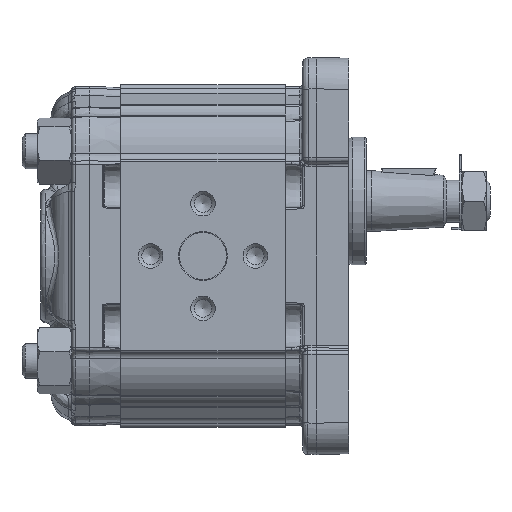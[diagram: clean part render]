
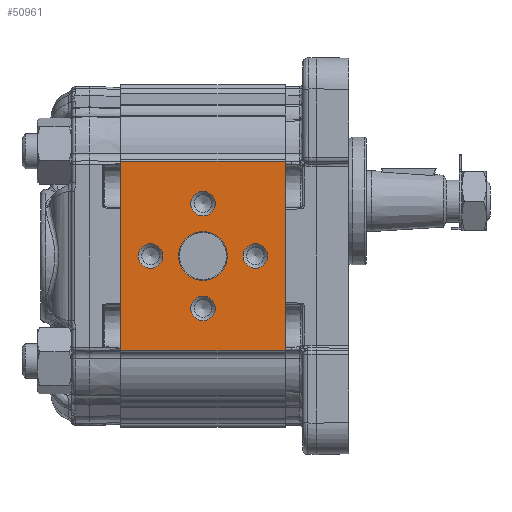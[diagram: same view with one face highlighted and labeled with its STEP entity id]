
A CAD part, left-side view. The second image highlights one B-rep face of the part: STEP entity #50961.
In plain terms, the highlighted planar face has unit normal (-1, 0, 0).
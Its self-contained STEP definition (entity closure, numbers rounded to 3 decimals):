
#3393=PLANE('',#53998);
#4550=CIRCLE('',#53999,3.5);
#4551=CIRCLE('',#54000,3.5);
#4552=CIRCLE('',#54001,3.5);
#4553=CIRCLE('',#54002,3.5);
#4554=CIRCLE('',#54003,6.95);
#9204=ORIENTED_EDGE('',*,*,#17801,.T.);
#9205=ORIENTED_EDGE('',*,*,#17802,.T.);
#9206=ORIENTED_EDGE('',*,*,#17803,.T.);
#9207=ORIENTED_EDGE('',*,*,#17804,.T.);
#9208=ORIENTED_EDGE('',*,*,#17805,.T.);
#9209=ORIENTED_EDGE('',*,*,#17806,.F.);
#9210=ORIENTED_EDGE('',*,*,#17807,.F.);
#9211=ORIENTED_EDGE('',*,*,#17808,.T.);
#9212=ORIENTED_EDGE('',*,*,#17809,.T.);
#17801=EDGE_CURVE('',#22385,#22385,#4550,.F.);
#17802=EDGE_CURVE('',#22386,#22386,#4551,.F.);
#17803=EDGE_CURVE('',#22387,#22387,#4552,.F.);
#17804=EDGE_CURVE('',#22388,#22388,#4553,.F.);
#17805=EDGE_CURVE('',#22389,#22389,#4554,.F.);
#17806=EDGE_CURVE('',#22390,#22391,#25073,.T.);
#17807=EDGE_CURVE('',#22392,#22390,#25074,.T.);
#17808=EDGE_CURVE('',#22392,#22393,#25075,.T.);
#17809=EDGE_CURVE('',#22393,#22391,#25076,.T.);
#22385=VERTEX_POINT('',#73501);
#22386=VERTEX_POINT('',#73503);
#22387=VERTEX_POINT('',#73505);
#22388=VERTEX_POINT('',#73507);
#22389=VERTEX_POINT('',#73509);
#22390=VERTEX_POINT('',#73511);
#22391=VERTEX_POINT('',#73512);
#22392=VERTEX_POINT('',#73514);
#22393=VERTEX_POINT('',#73516);
#25073=LINE('',#73510,#26815);
#25074=LINE('',#73513,#26816);
#25075=LINE('',#73515,#26817);
#25076=LINE('',#73517,#26818);
#26815=VECTOR('',#59639,1000.);
#26816=VECTOR('',#59640,1000.);
#26817=VECTOR('',#59641,1000.);
#26818=VECTOR('',#59642,1000.);
#29040=EDGE_LOOP('',(#9204));
#29041=EDGE_LOOP('',(#9205));
#29042=EDGE_LOOP('',(#9206));
#29043=EDGE_LOOP('',(#9207));
#29044=EDGE_LOOP('',(#9208));
#29045=EDGE_LOOP('',(#9209,#9210,#9211,#9212));
#31723=FACE_BOUND('',#29040,.T.);
#31724=FACE_BOUND('',#29041,.T.);
#31725=FACE_BOUND('',#29042,.T.);
#31726=FACE_BOUND('',#29043,.T.);
#31727=FACE_BOUND('',#29044,.T.);
#31728=FACE_BOUND('',#29045,.T.);
#50961=ADVANCED_FACE('',(#31723,#31724,#31725,#31726,#31727,#31728),#3393,
 .T.);
#53998=AXIS2_PLACEMENT_3D('',#73499,#59627,#59628);
#53999=AXIS2_PLACEMENT_3D('',#73500,#59629,#59630);
#54000=AXIS2_PLACEMENT_3D('',#73502,#59631,#59632);
#54001=AXIS2_PLACEMENT_3D('',#73504,#59633,#59634);
#54002=AXIS2_PLACEMENT_3D('',#73506,#59635,#59636);
#54003=AXIS2_PLACEMENT_3D('',#73508,#59637,#59638);
#59627=DIRECTION('',(-1.,0.,0.));
#59628=DIRECTION('',(0.,0.,1.));
#59629=DIRECTION('',(-1.,0.,0.));
#59630=DIRECTION('',(0.,0.,1.));
#59631=DIRECTION('',(-1.,0.,0.));
#59632=DIRECTION('',(0.,0.,1.));
#59633=DIRECTION('',(-1.,0.,0.));
#59634=DIRECTION('',(0.,0.,1.));
#59635=DIRECTION('',(-1.,0.,0.));
#59636=DIRECTION('',(0.,0.,1.));
#59637=DIRECTION('',(-1.,0.,0.));
#59638=DIRECTION('',(0.,0.,1.));
#59639=DIRECTION('',(0.,0.,-1.));
#59640=DIRECTION('',(0.,-1.,0.));
#59641=DIRECTION('',(0.,0.,-1.));
#59642=DIRECTION('',(0.,-1.,0.));
#73499=CARTESIAN_POINT('',(-43.,47.,27.048));
#73500=CARTESIAN_POINT('',(-43.,8.5,0.));
#73501=CARTESIAN_POINT('',(-43.,8.5,3.5));
#73502=CARTESIAN_POINT('',(-43.,38.5,0.));
#73503=CARTESIAN_POINT('',(-43.,38.5,3.5));
#73504=CARTESIAN_POINT('',(-43.,23.5,-15.));
#73505=CARTESIAN_POINT('',(-43.,23.5,-11.5));
#73506=CARTESIAN_POINT('',(-43.,23.5,15.));
#73507=CARTESIAN_POINT('',(-43.,23.5,18.5));
#73508=CARTESIAN_POINT('',(-43.,23.5,0.));
#73509=CARTESIAN_POINT('',(-43.,23.5,6.95));
#73510=CARTESIAN_POINT('',(-43.,0.,27.048));
#73511=CARTESIAN_POINT('',(-43.,0.,27.048));
#73512=CARTESIAN_POINT('',(-43.,0.,-27.048));
#73513=CARTESIAN_POINT('',(-43.,47.,27.048));
#73514=CARTESIAN_POINT('',(-43.,47.,27.048));
#73515=CARTESIAN_POINT('',(-43.,47.,27.048));
#73516=CARTESIAN_POINT('',(-43.,47.,-27.048));
#73517=CARTESIAN_POINT('',(-43.,47.,-27.048));
